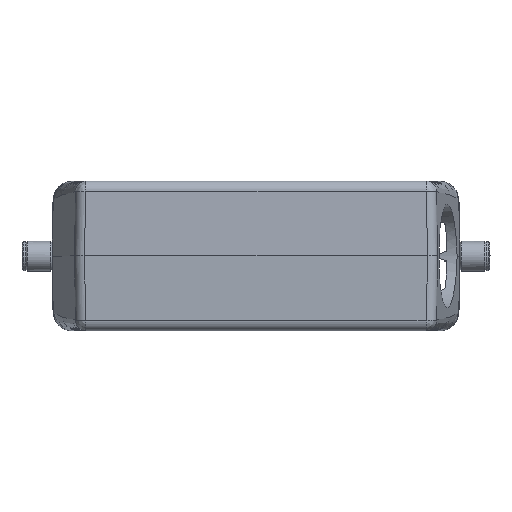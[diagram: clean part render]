
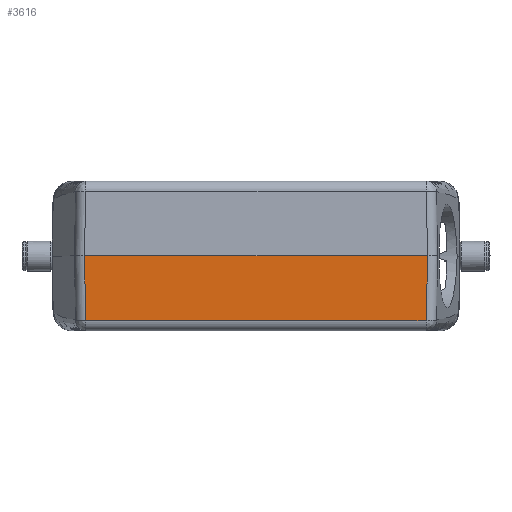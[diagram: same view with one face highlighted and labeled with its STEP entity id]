
A CAD part, top view. The second image highlights one B-rep face of the part: STEP entity #3616.
In plain terms, the highlighted planar face has unit normal (0, -0.018, 1).
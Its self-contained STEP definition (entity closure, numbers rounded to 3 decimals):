
#291 = CARTESIAN_POINT ( 'NONE',  ( -5.963, 65.73, 120.678 ) ) ;
#822 = CARTESIAN_POINT ( 'NONE',  ( -5.554, 46.678, 120.346 ) ) ;
#1133 = DIRECTION ( 'NONE',  ( 0., -0.017, 1. ) ) ;
#1192 = EDGE_CURVE ( 'NONE', #2897, #17839, #9627, .T. ) ;
#1219 = CARTESIAN_POINT ( 'NONE',  ( -8.48, 65.73, 120.678 ) ) ;
#1619 = LINE ( 'NONE', #14371, #5453 ) ;
#1760 = DIRECTION ( 'NONE',  ( 1., 0., 0. ) ) ;
#1863 = ORIENTED_EDGE ( 'NONE', *, *, #2906, .T. ) ;
#2034 = CARTESIAN_POINT ( 'NONE',  ( -5.686, 46.806, 120.348 ) ) ;
#2897 = VERTEX_POINT ( 'NONE', #3520 ) ;
#2906 = EDGE_CURVE ( 'NONE', #2897, #6580, #1619, .T. ) ;
#3520 = CARTESIAN_POINT ( 'NONE',  ( 94.897, 65.73, 120.678 ) ) ;
#3616 = ADVANCED_FACE ( 'NONE', ( #12226 ), #21807, .T. ) ;
#3725 = VERTEX_POINT ( 'NONE', #822 ) ;
#4413 = VECTOR ( 'NONE', #1760, 1000. ) ;
#5453 = VECTOR ( 'NONE', #16148, 1000. ) ;
#5527 = CARTESIAN_POINT ( 'NONE',  ( -5.778, 53.114, 120.458 ) ) ;
#6150 = DIRECTION ( 'NONE',  ( 0., -1., -0.017 ) ) ;
#6554 = CARTESIAN_POINT ( 'NONE',  ( -5.686, 46.806, 120.348 ) ) ;
#6580 = VERTEX_POINT ( 'NONE', #291 ) ;
#6703 = CARTESIAN_POINT ( 'NONE',  ( -5.621, 46.69, 120.346 ) ) ;
#6856 = EDGE_LOOP ( 'NONE', ( #21564, #16465, #11571, #1863, #11908, #11633 ) ) ;
#7555 = CARTESIAN_POINT ( 'NONE',  ( 94.482, 46.678, 120.346 ) ) ;
#7756 = CARTESIAN_POINT ( 'NONE',  ( 94.897, 65.73, 120.678 ) ) ;
#7933 = CARTESIAN_POINT ( 'NONE',  ( 94.519, 46.678, 120.346 ) ) ;
#8390 = CARTESIAN_POINT ( 'NONE',  ( -5.685, 46.771, 120.347 ) ) ;
#9035 = LINE ( 'NONE', #17606, #4413 ) ;
#9481 = EDGE_CURVE ( 'NONE', #12447, #3725, #14433, .T. ) ;
#9627 = LINE ( 'NONE', #7756, #19707 ) ;
#11036 = B_SPLINE_CURVE_WITH_KNOTS ( 'NONE', 3,
 ( #2034, #5527, #14198, #17794 ),
 .UNSPECIFIED., .F., .F.,
 ( 4, 4 ),
 ( 0., 1. ),
 .UNSPECIFIED. ) ;
#11262 = EDGE_CURVE ( 'NONE', #3725, #20320, #9035, .T. ) ;
#11571 = ORIENTED_EDGE ( 'NONE', *, *, #1192, .F. ) ;
#11633 = ORIENTED_EDGE ( 'NONE', *, *, #9481, .T. ) ;
#11908 = ORIENTED_EDGE ( 'NONE', *, *, #21522, .F. ) ;
#12226 = FACE_OUTER_BOUND ( 'NONE', #6856, .T. ) ;
#12447 = VERTEX_POINT ( 'NONE', #21740 ) ;
#13118 = B_SPLINE_CURVE_WITH_KNOTS ( 'NONE', 3,
 ( #7555, #7933, #20164, #18629, #17018, #16877 ),
 .UNSPECIFIED., .F., .F.,
 ( 4, 2, 4 ),
 ( 0., 0.5, 1. ),
 .UNSPECIFIED. ) ;
#13405 = CARTESIAN_POINT ( 'NONE',  ( -5.554, 46.678, 120.346 ) ) ;
#14198 = CARTESIAN_POINT ( 'NONE',  ( -5.871, 59.422, 120.568 ) ) ;
#14371 = CARTESIAN_POINT ( 'NONE',  ( -8.48, 65.73, 120.678 ) ) ;
#14433 = B_SPLINE_CURVE_WITH_KNOTS ( 'NONE', 3,
 ( #6554, #8390, #22335, #6703, #18775, #13405 ),
 .UNSPECIFIED., .F., .F.,
 ( 4, 2, 4 ),
 ( 0., 0.5, 1. ),
 .UNSPECIFIED. ) ;
#14731 = CARTESIAN_POINT ( 'NONE',  ( 94.62, 46.813, 120.348 ) ) ;
#16148 = DIRECTION ( 'NONE',  ( -1., 0., 0. ) ) ;
#16465 = ORIENTED_EDGE ( 'NONE', *, *, #21986, .T. ) ;
#16877 = CARTESIAN_POINT ( 'NONE',  ( 94.62, 46.813, 120.348 ) ) ;
#17018 = CARTESIAN_POINT ( 'NONE',  ( 94.619, 46.775, 120.347 ) ) ;
#17606 = CARTESIAN_POINT ( 'NONE',  ( -8.48, 46.678, 120.346 ) ) ;
#17794 = CARTESIAN_POINT ( 'NONE',  ( -5.963, 65.73, 120.678 ) ) ;
#17839 = VERTEX_POINT ( 'NONE', #14731 ) ;
#18629 = CARTESIAN_POINT ( 'NONE',  ( 94.605, 46.743, 120.347 ) ) ;
#18775 = CARTESIAN_POINT ( 'NONE',  ( -5.591, 46.678, 120.346 ) ) ;
#19217 = AXIS2_PLACEMENT_3D ( 'NONE', #1219, #1133, #6150 ) ;
#19232 = CARTESIAN_POINT ( 'NONE',  ( 94.482, 46.678, 120.346 ) ) ;
#19707 = VECTOR ( 'NONE', #21737, 1000. ) ;
#20164 = CARTESIAN_POINT ( 'NONE',  ( 94.552, 46.691, 120.346 ) ) ;
#20320 = VERTEX_POINT ( 'NONE', #19232 ) ;
#21522 = EDGE_CURVE ( 'NONE', #12447, #6580, #11036, .T. ) ;
#21564 = ORIENTED_EDGE ( 'NONE', *, *, #11262, .T. ) ;
#21737 = DIRECTION ( 'NONE',  ( -0.015, -1., -0.017 ) ) ;
#21740 = CARTESIAN_POINT ( 'NONE',  ( -5.686, 46.806, 120.348 ) ) ;
#21807 = PLANE ( 'NONE',  #19217 ) ;
#21986 = EDGE_CURVE ( 'NONE', #20320, #17839, #13118, .T. ) ;
#22335 = CARTESIAN_POINT ( 'NONE',  ( -5.672, 46.74, 120.347 ) ) ;
